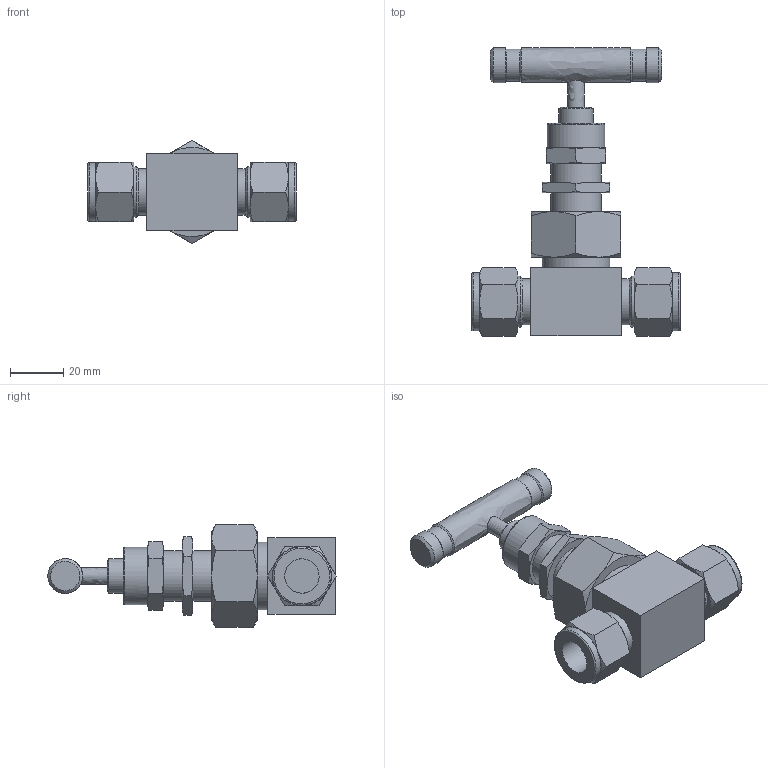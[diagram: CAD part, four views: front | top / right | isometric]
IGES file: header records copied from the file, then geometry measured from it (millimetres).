
Global section: file name: SUNV2-S8-S316; native system: Autodesk Inventor 2016; preprocessor: unknown; author: 이승민,,11,0; organization: 20161215.102942; date: 20161216.192854; units: millimetre
Bounding box: 78 x 107.84 x 38.51 mm (x, y, z)
Volume: 74549.4 mm3; surface area: 23826.3 mm2
Topology: 2 solids, 2 shells, 155 faces, 381 edges, 251 vertices
Faces by surface type: bspline 155
